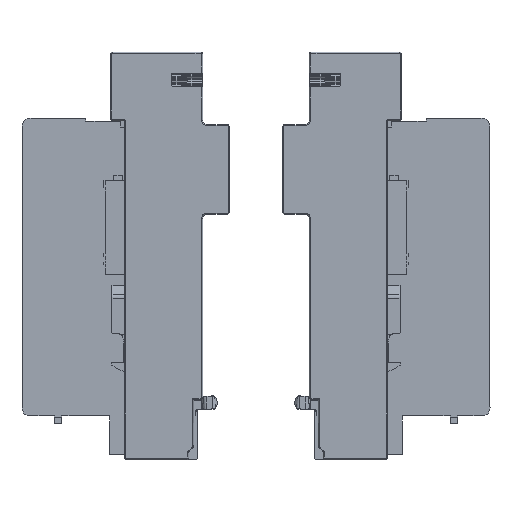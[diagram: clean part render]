
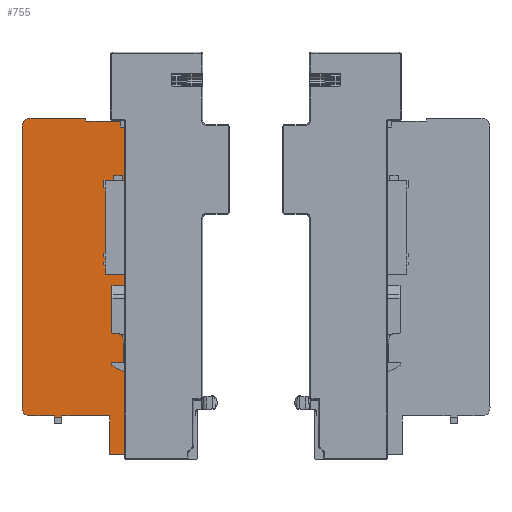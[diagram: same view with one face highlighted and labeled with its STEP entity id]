
A CAD part, top view. The second image highlights one B-rep face of the part: STEP entity #755.
In plain terms, the highlighted planar face has unit normal (0, 0, 1).
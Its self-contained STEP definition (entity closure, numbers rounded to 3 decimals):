
#755=ADVANCED_FACE('',(#2052),#2053,.T.);
#2052=FACE_OUTER_BOUND('',#3950,.T.);
#2053=PLANE('',#3951);
#3950=EDGE_LOOP('',(#7286,#7287,#7288,#7289,#7290,#7291,#7292,#7293,#7294,#7295,#7296,#7297,#7298,#7299,#7300));
#3951=AXIS2_PLACEMENT_3D('',#7301,#7302,#7303);
#7286=ORIENTED_EDGE('',*,*,#12500,.F.);
#7287=ORIENTED_EDGE('',*,*,#12501,.F.);
#7288=ORIENTED_EDGE('',*,*,#12262,.F.);
#7289=ORIENTED_EDGE('',*,*,#12502,.F.);
#7290=ORIENTED_EDGE('',*,*,#12503,.T.);
#7291=ORIENTED_EDGE('',*,*,#12472,.F.);
#7292=ORIENTED_EDGE('',*,*,#12504,.F.);
#7293=ORIENTED_EDGE('',*,*,#12505,.F.);
#7294=ORIENTED_EDGE('',*,*,#12506,.F.);
#7295=ORIENTED_EDGE('',*,*,#12507,.F.);
#7296=ORIENTED_EDGE('',*,*,#12508,.F.);
#7297=ORIENTED_EDGE('',*,*,#12462,.F.);
#7298=ORIENTED_EDGE('',*,*,#12509,.T.);
#7299=ORIENTED_EDGE('',*,*,#12510,.F.);
#7300=ORIENTED_EDGE('',*,*,#12511,.F.);
#7301=CARTESIAN_POINT('',(-82.1,247.593,1.));
#7302=DIRECTION('',(0.,0.,1.0));
#7303=DIRECTION('',(-1.0,0.,0.));
#12262=EDGE_CURVE('',#14538,#14541,#14542,.T.);
#12462=EDGE_CURVE('',#14859,#14860,#14861,.T.);
#12472=EDGE_CURVE('',#14877,#14878,#14879,.T.);
#12500=EDGE_CURVE('',#14928,#14929,#14930,.T.);
#12501=EDGE_CURVE('',#14541,#14928,#14931,.T.);
#12502=EDGE_CURVE('',#14932,#14538,#14933,.T.);
#12503=EDGE_CURVE('',#14932,#14878,#14934,.T.);
#12504=EDGE_CURVE('',#14935,#14877,#14936,.T.);
#12505=EDGE_CURVE('',#14937,#14935,#14938,.T.);
#12506=EDGE_CURVE('',#14939,#14937,#14940,.T.);
#12507=EDGE_CURVE('',#14941,#14939,#14942,.T.);
#12508=EDGE_CURVE('',#14860,#14941,#14943,.T.);
#12509=EDGE_CURVE('',#14859,#14944,#14945,.T.);
#12510=EDGE_CURVE('',#14946,#14944,#14947,.T.);
#12511=EDGE_CURVE('',#14929,#14946,#14948,.T.);
#14538=VERTEX_POINT('',#17858);
#14541=VERTEX_POINT('',#17862);
#14542=LINE('',#17863,#17864);
#14859=VERTEX_POINT('',#18314);
#14860=VERTEX_POINT('',#18315);
#14861=LINE('',#18316,#18317);
#14877=VERTEX_POINT('',#18340);
#14878=VERTEX_POINT('',#18341);
#14879=LINE('',#18342,#18343);
#14928=VERTEX_POINT('',#18409);
#14929=VERTEX_POINT('',#18410);
#14930=LINE('',#18411,#18412);
#14931=LINE('',#18413,#18414);
#14932=VERTEX_POINT('',#18415);
#14933=LINE('',#18416,#18417);
#14934=CIRCLE('',#18418,1.0);
#14935=VERTEX_POINT('',#18419);
#14936=LINE('',#18420,#18421);
#14937=VERTEX_POINT('',#18422);
#14938=LINE('',#18423,#18424);
#14939=VERTEX_POINT('',#18425);
#14940=CIRCLE('',#18426,5.0);
#14941=VERTEX_POINT('',#18427);
#14942=LINE('',#18428,#18429);
#14943=CIRCLE('',#18430,5.0);
#14944=VERTEX_POINT('',#18431);
#14945=LINE('',#18432,#18433);
#14946=VERTEX_POINT('',#18434);
#14947=LINE('',#18435,#18436);
#14948=LINE('',#18437,#18438);
#17858=CARTESIAN_POINT('',(-82.1,3.1,1.));
#17862=CARTESIAN_POINT('',(-91.5,3.1,1.));
#17863=CARTESIAN_POINT('',(-82.1,3.1,1.));
#17864=VECTOR('',#22695,1000.0);
#18314=CARTESIAN_POINT('',(-126.45,27.45,1.));
#18315=CARTESIAN_POINT('',(-141.5,27.45,1.));
#18316=CARTESIAN_POINT('',(-82.1,27.45,1.));
#18317=VECTOR('',#22928,1000.0);
#18340=CARTESIAN_POINT('',(-106.5,212.,1.));
#18341=CARTESIAN_POINT('',(-82.386,212.,1.));
#18342=CARTESIAN_POINT('',(-82.1,212.,1.));
#18343=VECTOR('',#22936,1000.0);
#18409=CARTESIAN_POINT('',(-91.5,27.45,1.));
#18410=CARTESIAN_POINT('',(-121.55,27.45,1.));
#18411=CARTESIAN_POINT('',(-82.1,27.45,1.));
#18412=VECTOR('',#22978,1000.0);
#18413=CARTESIAN_POINT('',(-91.5,247.593,1.));
#18414=VECTOR('',#22979,1000.0);
#18415=CARTESIAN_POINT('',(-82.1,211.3,1.));
#18416=CARTESIAN_POINT('',(-82.1,247.593,1.));
#18417=VECTOR('',#22980,1000.0);
#18418=AXIS2_PLACEMENT_3D('',#22981,#22982,#22983);
#18419=CARTESIAN_POINT('',(-106.5,213.8,1.));
#18420=CARTESIAN_POINT('',(-106.5,212.,1.));
#18421=VECTOR('',#22984,1000.0);
#18422=CARTESIAN_POINT('',(-141.5,213.8,1.));
#18423=CARTESIAN_POINT('',(-106.5,213.8,1.));
#18424=VECTOR('',#22985,1000.0);
#18425=CARTESIAN_POINT('',(-146.5,208.8,1.));
#18426=AXIS2_PLACEMENT_3D('',#22986,#22987,#22988);
#18427=CARTESIAN_POINT('',(-146.5,32.45,1.));
#18428=CARTESIAN_POINT('',(-146.5,208.8,1.));
#18429=VECTOR('',#22989,1000.0);
#18430=AXIS2_PLACEMENT_3D('',#22990,#22991,#22992);
#18431=CARTESIAN_POINT('',(-126.45,26.75,1.));
#18432=CARTESIAN_POINT('',(-126.45,26.75,1.));
#18433=VECTOR('',#22993,1000.0);
#18434=CARTESIAN_POINT('',(-121.55,26.75,1.));
#18435=CARTESIAN_POINT('',(-121.55,26.75,1.));
#18436=VECTOR('',#22994,1000.0);
#18437=CARTESIAN_POINT('',(-121.55,26.75,1.));
#18438=VECTOR('',#22995,1000.0);
#22695=DIRECTION('',(-1.0,0.,0.));
#22928=DIRECTION('',(-1.0,0.,0.));
#22936=DIRECTION('',(1.0,0.,0.));
#22978=DIRECTION('',(-1.0,0.,0.));
#22979=DIRECTION('',(0.,1.0,0.));
#22980=DIRECTION('',(0.,-1.0,0.));
#22981=CARTESIAN_POINT('',(-83.1,211.3,1.));
#22982=DIRECTION('',(0.,0.,1.0));
#22983=DIRECTION('',(-1.0,0.,0.));
#22984=DIRECTION('',(0.,-1.0,0.));
#22985=DIRECTION('',(1.0,0.,0.));
#22986=CARTESIAN_POINT('',(-141.5,208.8,1.));
#22987=DIRECTION('',(0.,0.,-1.0));
#22988=DIRECTION('',(1.0,0.,0.));
#22989=DIRECTION('',(0.,1.0,0.));
#22990=CARTESIAN_POINT('',(-141.5,32.45,1.));
#22991=DIRECTION('',(0.,0.,-1.0));
#22992=DIRECTION('',(1.0,0.,0.));
#22993=DIRECTION('',(0.,-1.0,0.));
#22994=DIRECTION('',(-1.0,0.,0.));
#22995=DIRECTION('',(0.,-1.0,0.));
